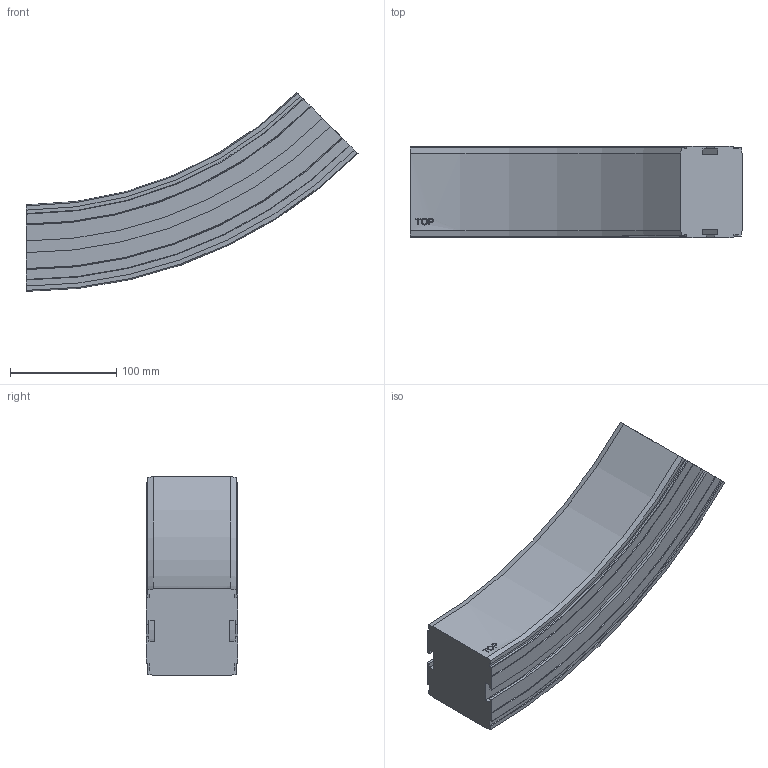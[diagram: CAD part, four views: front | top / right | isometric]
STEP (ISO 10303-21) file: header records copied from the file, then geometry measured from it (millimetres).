
FILE_DESCRIPTION((''),'2;1');
FILE_NAME('C:\Vault Klient\Projekt\Koncept konstruktion\Serie 830 Balk\830-5620_UP.stp','2009-11-27T10:51:45',('Mathias'),(''),'Autodesk Inventor 2010','Autodesk Inventor 2010','');
FILE_SCHEMA(('AUTOMOTIVE_DESIGN { 1 0 10303 214 1 1 1 1 }'));
Length unit declared in the file: millimetre
Products named in the file (1): 830-5620_UP
Bounding box: 312.54 x 86 x 187.09 mm (x, y, z)
Volume: 2094661.2 mm3; surface area: 141989.6 mm2
Topology: 1 solids, 1 shells, 93 faces, 258 edges, 172 vertices
Faces by surface type: plane 40, cylinder 23, bspline 14, cone 12, torus 4
Entity records: 3384 total; most frequent: CARTESIAN_POINT 949, ORIENTED_EDGE 516, DIRECTION 472, EDGE_CURVE 258, VERTEX_POINT 172, AXIS2_PLACEMENT_3D 162, VECTOR 148, LINE 148
